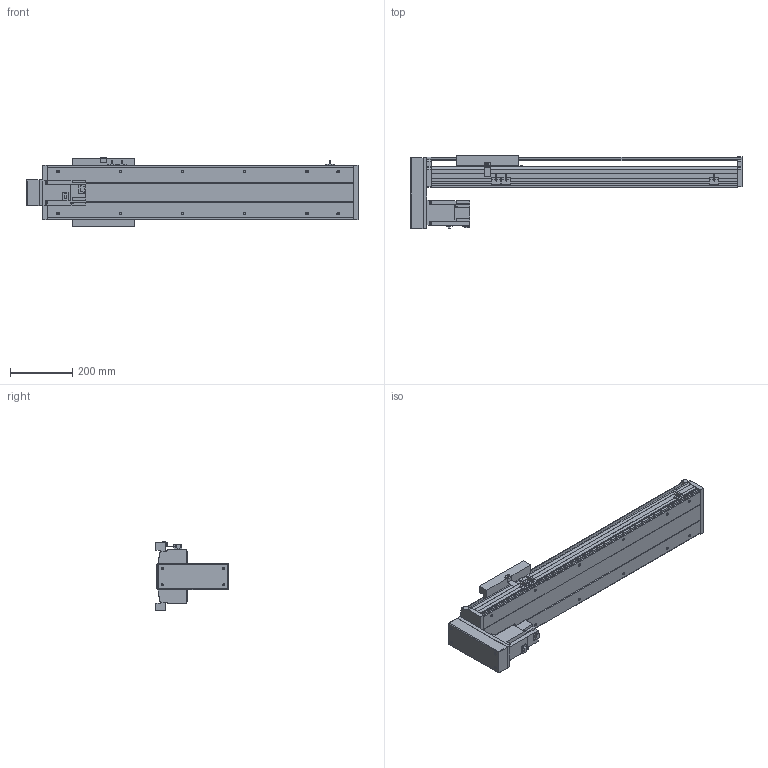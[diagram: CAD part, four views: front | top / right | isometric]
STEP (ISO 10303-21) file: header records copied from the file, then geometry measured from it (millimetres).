
FILE_DESCRIPTION( ( 'STEP AP214' ), '1' );
FILE_NAME( 'x:/temp/worker_27/temp/exporttempdir_6708_424_QnKrp/format_0/PSS200-L10-S650-BM-T75-C1-N(0).stp', '2022-06-06T02:44:49', ( 'License CC BY-ND 4.0' ), ( 'CADENAS' ), ' ', 'PARTsolutions', ' ' );
FILE_SCHEMA( ( 'AUTOMOTIVE_DESIGN { 1 0 10303 214 1 1 1 1 }' ) );
Length unit declared in the file: millimetre
Products named in the file (8): PSS200-L10-S650-BM-T75-C1-N(0); _PSS200-S650-BM-C1-N_body; _PSS200-N_Q; _PSS200-BM-C1-N_sl; _PSS200-N_sensor; _PSS200BM-N_h; _T75-p1; _PSS200-S650-BM-N_S
Assembly tree (9 placements, depth 2):
  PSS200-L10-S650-BM-T75-C1-N(0)
    _PSS200-S650-BM-C1-N_body
    _PSS200-N_Q
    _PSS200-BM-C1-N_sl
    _PSS200-N_sensor  x3
    _PSS200BM-N_h
    _T75-p1
    _PSS200-S650-BM-N_S
Bounding box: 1066.85 x 234.45 x 223.86 mm (x, y, z)
Volume: 7692881 mm3; surface area: 1742037.9 mm2
Topology: 9 solids, 9 shells, 598 faces, 1601 edges, 1062 vertices
Faces by surface type: plane 452, cylinder 122, cone 20, sphere 4
Full cylindrical faces by diameter (mm): 4 x2, 4.5 x4, 6 x7, 6.647 x16, 7.4 x4, 8 x8, 10 x6, 25 x1, 40 x1, 67 x1
Entity records: 20949 total; most frequent: CARTESIAN_POINT 2901, DIRECTION 2747, ORIENTED_EDGE 2722, EDGE_CURVE 1361, LINE 1071, VECTOR 1071, VERTEX_POINT 944, AXIS2_PLACEMENT_3D 838
